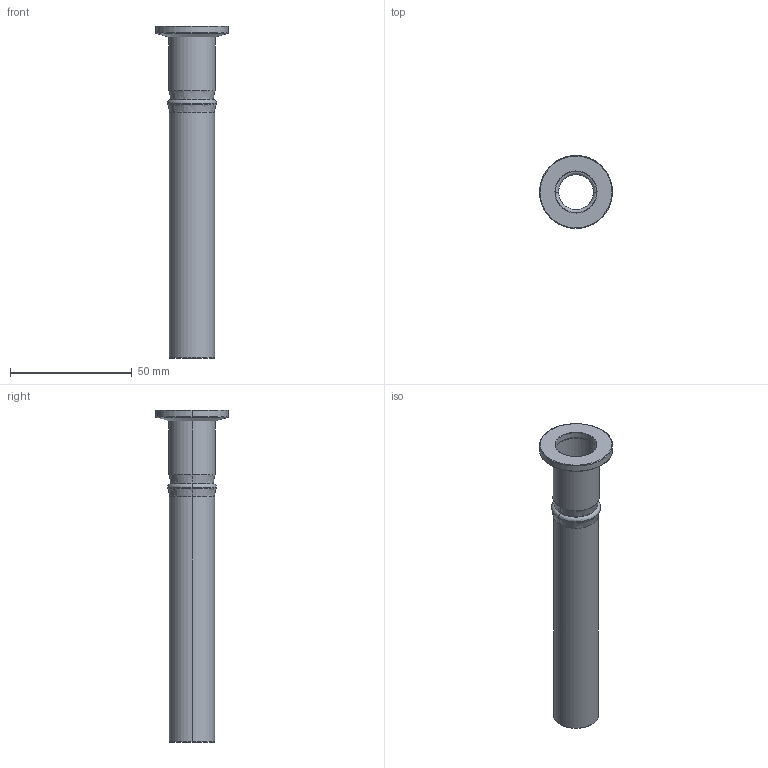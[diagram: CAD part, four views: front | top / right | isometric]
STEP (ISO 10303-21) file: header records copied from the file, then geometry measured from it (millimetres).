
FILE_DESCRIPTION (( 'STEP AP203' ), '1' );
FILE_NAME ('211025.stp', '2018-05-21T20:47:27', ( '' ), ( '' ), 'SwSTEP 2.0', 'SolidWorks 2012', '' );
FILE_SCHEMA (( 'CONFIG_CONTROL_DESIGN' ));
Length unit declared in the file: centimetre
Products named in the file (1): 211025
Bounding box: 29.97 x 29.97 x 136.53 mm (x, y, z)
Volume: 10571.6 mm3; surface area: 16058.6 mm2
Topology: 1 solids, 1 shells, 332 faces, 860 edges, 559 vertices
Faces by surface type: bspline 157, plane 117, cylinder 50, cone 8
Entity records: 33944 total; most frequent: CARTESIAN_POINT 26937, ORIENTED_EDGE 1720, DIRECTION 956, EDGE_CURVE 860, VERTEX_POINT 559, B_SPLINE_CURVE_WITH_KNOTS 367, EDGE_LOOP 363, FACE_OUTER_BOUND 332
